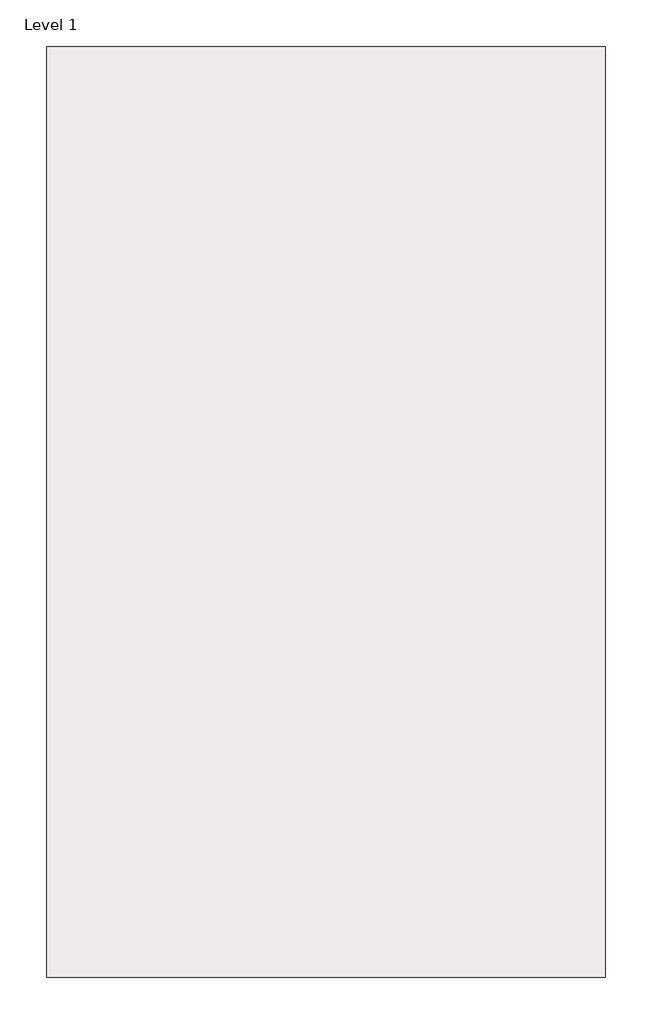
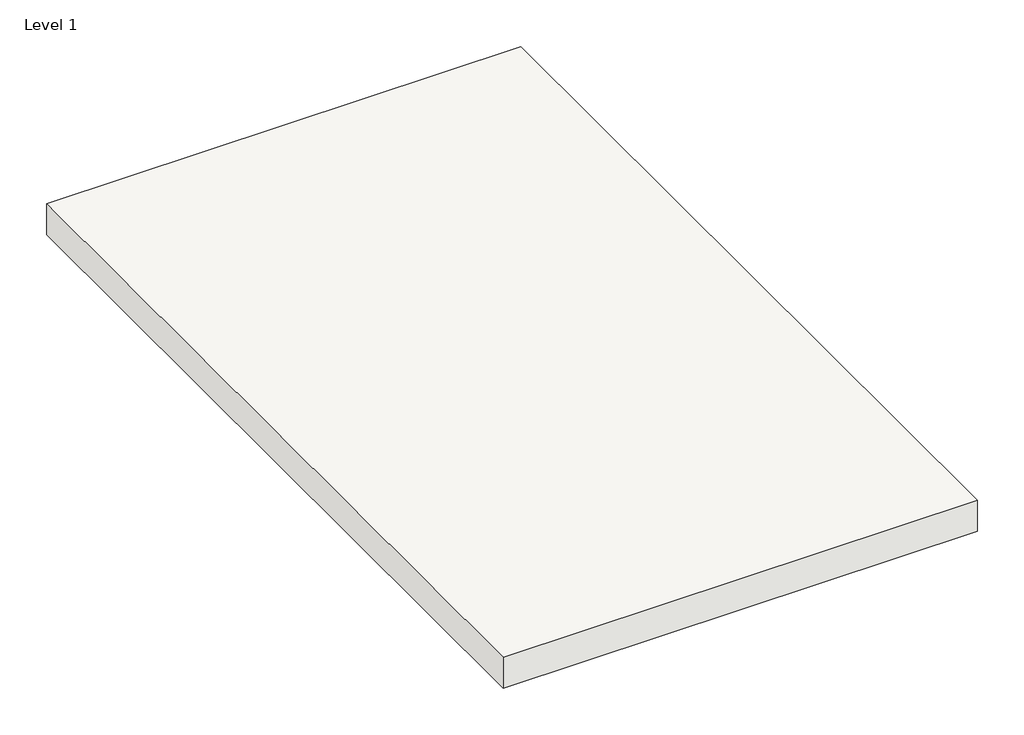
# One storey: 1 slab.
"""IFC4 building model written with IfcOpenShell, lengths in millimetres."""

from ifc_helpers import new_model, si_unit, frame, origin, place, context, project, spatial, polyline, outline, extrude, element, save

model = new_model("IFC4")

# Units and contexts
model_context = context("Model", 3, world=origin())
ifc_project = project(units=[si_unit("LENGTHUNIT", "METRE", prefix="MILLI")], contexts=[model_context])

# Site, building, storey
site = spatial("IfcSite", under=ifc_project)
building = spatial("IfcBuilding", under=site)
storey = spatial("IfcBuildingStorey", under=building, Name="Level 1", Elevation=0.0)

# Slab
placement = place(None, origin())
element("IfcSlab", 1, ObjectType="EDP324A", at=placement, inside=storey, context=model_context, shape_type="SweptSolid", body=[
    extrude(outline(polyline([(2747.4282268, 3623.6822678), (2747.4282268, 575.6822678), (918.6282268, 575.6822678), (918.6282268, 3623.6822678), (2747.4282268, 3623.6822678)])), frame((0.0, 0.0, -127.0), z_axis=(0.0, 0.0, 1.0), x_axis=(1.0, 0.0, 0.0)), (0.0, 0.0, 1.0), 127.0),
])

save(model, "model.ifc")
